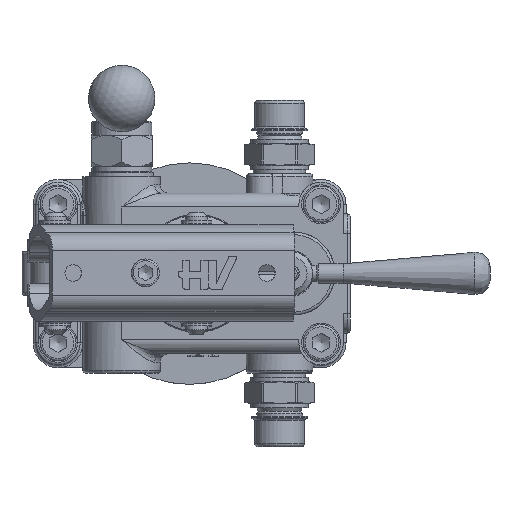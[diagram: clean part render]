
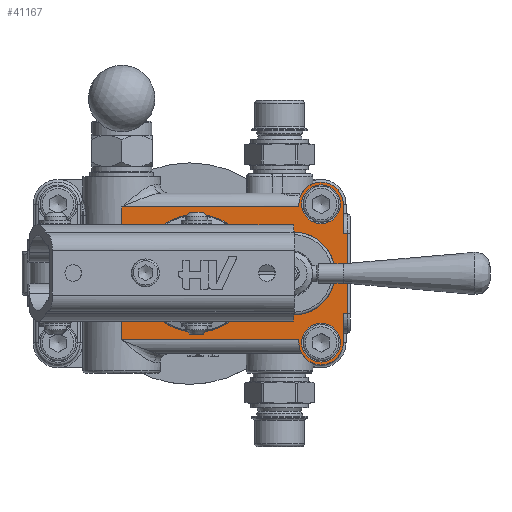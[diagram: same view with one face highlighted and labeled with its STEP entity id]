
A CAD part, top view. The second image highlights one B-rep face of the part: STEP entity #41167.
In plain terms, the highlighted planar face has unit normal (0, 0, 1).
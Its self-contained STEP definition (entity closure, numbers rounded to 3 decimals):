
#18888=CARTESIAN_POINT('',(77.311,39.077,43.));
#18889=VERTEX_POINT('',#18888);
#18890=CARTESIAN_POINT('',(59.,34.,43.));
#18891=DIRECTION('',(0.,0.,-1.0));
#18892=DIRECTION('',(-0.964,-0.267,0.));
#18893=AXIS2_PLACEMENT_3D('',#18890,#18891,#18892);
#18894=CIRCLE('',#18893,19.002);
#18895=EDGE_CURVE('',#18889,#18889,#18894,.T.);
#39510=CARTESIAN_POINT('',(96.,58.,43.));
#39511=VERTEX_POINT('',#39510);
#39519=CARTESIAN_POINT('',(96.,59.,43.));
#39520=VERTEX_POINT('',#39519);
#39521=CARTESIAN_POINT('',(96.,58.,43.));
#39522=DIRECTION('',(0.0,1.0,0.0));
#39523=VECTOR('',#39522,1.);
#39524=LINE('',#39521,#39523);
#39525=EDGE_CURVE('',#39511,#39520,#39524,.T.);
#39541=CARTESIAN_POINT('',(96.0,10.0,43.));
#39542=VERTEX_POINT('',#39541);
#39552=CARTESIAN_POINT('',(96.0,9.,43.));
#39553=VERTEX_POINT('',#39552);
#39560=CARTESIAN_POINT('',(96.,9.,43.));
#39561=DIRECTION('',(0.0,1.0,0.0));
#39562=VECTOR('',#39561,1.);
#39563=LINE('',#39560,#39562);
#39564=EDGE_CURVE('',#39553,#39542,#39563,.T.);
#39723=CARTESIAN_POINT('',(32.,44.122,43.));
#39724=VERTEX_POINT('',#39723);
#39773=CARTESIAN_POINT('',(33.732,41.0,43.));
#39774=VERTEX_POINT('',#39773);
#39782=CARTESIAN_POINT('',(33.732,41.0,43.));
#39783=CARTESIAN_POINT('',(33.732,41.528,43.));
#39784=CARTESIAN_POINT('',(33.438,42.767,43.));
#39785=CARTESIAN_POINT('',(32.582,43.719,43.));
#39786=CARTESIAN_POINT('',(32.,44.122,43.));
#39787=B_SPLINE_CURVE_WITH_KNOTS('',3,(#39782,#39783,#39784,#39785,#39786),.UNSPECIFIED.,.F.,.U.,(4,1,4),(2.696,2.855,3.066),.UNSPECIFIED.);
#39788=EDGE_CURVE('',#39774,#39724,#39787,.T.);
#39800=CARTESIAN_POINT('',(33.732,27.,43.));
#39801=VERTEX_POINT('',#39800);
#39809=CARTESIAN_POINT('',(33.732,27.,43.));
#39810=DIRECTION('',(0.0,1.0,0.0));
#39811=VECTOR('',#39810,14.);
#39812=LINE('',#39809,#39811);
#39813=EDGE_CURVE('',#39801,#39774,#39812,.T.);
#39846=CARTESIAN_POINT('',(32.,23.878,43.));
#39847=VERTEX_POINT('',#39846);
#39855=CARTESIAN_POINT('',(32.,23.878,43.));
#39856=CARTESIAN_POINT('',(32.433,24.178,43.));
#39857=CARTESIAN_POINT('',(33.336,25.067,43.));
#39858=CARTESIAN_POINT('',(33.732,26.29,43.0));
#39859=CARTESIAN_POINT('',(33.732,27.,43.));
#39860=B_SPLINE_CURVE_WITH_KNOTS('',3,(#39855,#39856,#39857,#39858,#39859),.UNSPECIFIED.,.F.,.U.,(4,1,4),(2.696,2.854,3.065),.UNSPECIFIED.);
#39861=EDGE_CURVE('',#39847,#39801,#39860,.T.);
#40565=CARTESIAN_POINT('',(112.0,59.,43.));
#40566=VERTEX_POINT('',#40565);
#40573=CARTESIAN_POINT('',(112.,48.5,43.));
#40574=VERTEX_POINT('',#40573);
#40575=CARTESIAN_POINT('',(112.0,59.,43.));
#40576=DIRECTION('',(0.0,-1.0,0.0));
#40577=VECTOR('',#40576,10.5);
#40578=LINE('',#40575,#40577);
#40579=EDGE_CURVE('',#40566,#40574,#40578,.T.);
#40694=CARTESIAN_POINT('',(112.0,19.5,43.));
#40695=VERTEX_POINT('',#40694);
#40703=CARTESIAN_POINT('',(112.,9.,43.));
#40704=VERTEX_POINT('',#40703);
#40705=CARTESIAN_POINT('',(112.,19.5,43.));
#40706=DIRECTION('',(0.0,-1.0,0.0));
#40707=VECTOR('',#40706,10.5);
#40708=LINE('',#40705,#40707);
#40709=EDGE_CURVE('',#40695,#40704,#40708,.T.);
#41032=CARTESIAN_POINT('',(113.5,48.5,43.));
#41033=VERTEX_POINT('',#41032);
#41043=CARTESIAN_POINT('',(112.,48.5,43.));
#41044=DIRECTION('',(1.0,0.0,0.0));
#41045=VECTOR('',#41044,1.5);
#41046=LINE('',#41043,#41045);
#41047=EDGE_CURVE('',#40574,#41033,#41046,.T.);
#41052=CARTESIAN_POINT('',(104.,34.,43.));
#41053=DIRECTION('',(0.0,0.0,1.0));
#41054=DIRECTION('',(1.0,0.0,0.0));
#41055=AXIS2_PLACEMENT_3D('',#41052,#41053,#41054);
#41056=PLANE('',#41055);
#41057=CARTESIAN_POINT('',(113.5,19.5,43.));
#41058=VERTEX_POINT('',#41057);
#41059=CARTESIAN_POINT('',(113.5,48.5,43.));
#41060=DIRECTION('',(0.0,-1.0,0.0));
#41061=VECTOR('',#41060,29.);
#41062=LINE('',#41059,#41061);
#41063=EDGE_CURVE('',#41033,#41058,#41062,.T.);
#41064=ORIENTED_EDGE('',*,*,#41063,.F.);
#41065=ORIENTED_EDGE('',*,*,#41047,.F.);
#41066=ORIENTED_EDGE('',*,*,#40579,.F.);
#41067=CARTESIAN_POINT('',(104.,59.,43.));
#41068=DIRECTION('',(0.0,0.0,-1.0));
#41069=DIRECTION('',(1.0,0.0,0.0));
#41070=AXIS2_PLACEMENT_3D('',#41067,#41068,#41069);
#41071=CIRCLE('',#41070,8.0);
#41072=EDGE_CURVE('',#39520,#40566,#41071,.T.);
#41073=ORIENTED_EDGE('',*,*,#41072,.F.);
#41074=ORIENTED_EDGE('',*,*,#39525,.F.);
#41075=CARTESIAN_POINT('',(32.,58.,43.));
#41076=VERTEX_POINT('',#41075);
#41077=CARTESIAN_POINT('',(96.,58.,43.));
#41078=DIRECTION('',(-1.0,0.0,0.0));
#41079=VECTOR('',#41078,64.);
#41080=LINE('',#41077,#41079);
#41081=EDGE_CURVE('',#39511,#41076,#41080,.T.);
#41082=ORIENTED_EDGE('',*,*,#41081,.T.);
#41083=CARTESIAN_POINT('',(32.0,44.122,43.0));
#41084=DIRECTION('',(0.0,1.0,0.0));
#41085=VECTOR('',#41084,13.878);
#41086=LINE('',#41083,#41085);
#41087=EDGE_CURVE('',#39724,#41076,#41086,.T.);
#41088=ORIENTED_EDGE('',*,*,#41087,.F.);
#41089=ORIENTED_EDGE('',*,*,#39788,.F.);
#41090=ORIENTED_EDGE('',*,*,#39813,.F.);
#41091=ORIENTED_EDGE('',*,*,#39861,.F.);
#41092=CARTESIAN_POINT('',(32.,10.0,43.));
#41093=VERTEX_POINT('',#41092);
#41094=CARTESIAN_POINT('',(32.0,10.,43.0));
#41095=DIRECTION('',(0.0,1.0,0.0));
#41096=VECTOR('',#41095,13.878);
#41097=LINE('',#41094,#41096);
#41098=EDGE_CURVE('',#41093,#39847,#41097,.T.);
#41099=ORIENTED_EDGE('',*,*,#41098,.F.);
#41100=CARTESIAN_POINT('',(96.0,10.0,43.));
#41101=DIRECTION('',(-1.0,0.0,0.0));
#41102=VECTOR('',#41101,64.);
#41103=LINE('',#41100,#41102);
#41104=EDGE_CURVE('',#39542,#41093,#41103,.T.);
#41105=ORIENTED_EDGE('',*,*,#41104,.F.);
#41106=ORIENTED_EDGE('',*,*,#39564,.F.);
#41107=CARTESIAN_POINT('',(104.0,9.,43.));
#41108=DIRECTION('',(0.0,0.0,-1.0));
#41109=DIRECTION('',(-1.0,0.0,0.0));
#41110=AXIS2_PLACEMENT_3D('',#41107,#41108,#41109);
#41111=CIRCLE('',#41110,8.0);
#41112=EDGE_CURVE('',#40704,#39553,#41111,.T.);
#41113=ORIENTED_EDGE('',*,*,#41112,.F.);
#41114=ORIENTED_EDGE('',*,*,#40709,.F.);
#41115=CARTESIAN_POINT('',(112.0,19.5,43.));
#41116=DIRECTION('',(1.0,0.0,0.0));
#41117=VECTOR('',#41116,1.5);
#41118=LINE('',#41115,#41117);
#41119=EDGE_CURVE('',#40695,#41058,#41118,.T.);
#41120=ORIENTED_EDGE('',*,*,#41119,.T.);
#41121=EDGE_LOOP('',(#41064,#41065,#41066,#41073,#41074,#41082,#41088,#41089,#41090,#41091,#41099,#41105,#41106,#41113,#41114,#41120));
#41122=FACE_OUTER_BOUND('',#41121,.T.);
#41123=ORIENTED_EDGE('',*,*,#18895,.T.);
#41124=EDGE_LOOP('',(#41123));
#41125=FACE_BOUND('',#41124,.T.);
#41126=CARTESIAN_POINT('',(111.,59.,43.));
#41127=VERTEX_POINT('',#41126);
#41128=CARTESIAN_POINT('',(104.,59.,43.));
#41129=DIRECTION('',(0.0,0.0,-1.0));
#41130=DIRECTION('',(1.0,0.0,0.0));
#41131=AXIS2_PLACEMENT_3D('',#41128,#41129,#41130);
#41132=CIRCLE('',#41131,7.);
#41133=EDGE_CURVE('',#41127,#41127,#41132,.T.);
#41134=ORIENTED_EDGE('',*,*,#41133,.T.);
#41135=EDGE_LOOP('',(#41134));
#41136=FACE_BOUND('',#41135,.T.);
#41137=CARTESIAN_POINT('',(111.0,9.,43.));
#41138=VERTEX_POINT('',#41137);
#41139=CARTESIAN_POINT('',(104.0,9.,43.));
#41140=DIRECTION('',(0.0,0.0,-1.0));
#41141=DIRECTION('',(1.0,0.0,0.0));
#41142=AXIS2_PLACEMENT_3D('',#41139,#41140,#41141);
#41143=CIRCLE('',#41142,7.);
#41144=EDGE_CURVE('',#41138,#41138,#41143,.T.);
#41145=ORIENTED_EDGE('',*,*,#41144,.T.);
#41146=EDGE_LOOP('',(#41145));
#41147=FACE_BOUND('',#41146,.T.);
#41148=CARTESIAN_POINT('',(83.0,44.198,43.));
#41149=VERTEX_POINT('',#41148);
#41150=CARTESIAN_POINT('',(83.0,23.802,43.));
#41151=VERTEX_POINT('',#41150);
#41152=CARTESIAN_POINT('',(94.,34.0,43.));
#41153=DIRECTION('',(0.0,0.0,-1.0));
#41154=DIRECTION('',(-1.0,0.0,0.0));
#41155=AXIS2_PLACEMENT_3D('',#41152,#41153,#41154);
#41156=CIRCLE('',#41155,15.0);
#41157=EDGE_CURVE('',#41149,#41151,#41156,.T.);
#41158=ORIENTED_EDGE('',*,*,#41157,.T.);
#41159=CARTESIAN_POINT('',(83.0,23.802,43.));
#41160=DIRECTION('',(0.0,1.0,0.0));
#41161=VECTOR('',#41160,20.396);
#41162=LINE('',#41159,#41161);
#41163=EDGE_CURVE('',#41151,#41149,#41162,.T.);
#41164=ORIENTED_EDGE('',*,*,#41163,.T.);
#41165=EDGE_LOOP('',(#41158,#41164));
#41166=FACE_BOUND('',#41165,.T.);
#41167=ADVANCED_FACE('',(#41122,#41125,#41136,#41147,#41166),#41056,.T.);
